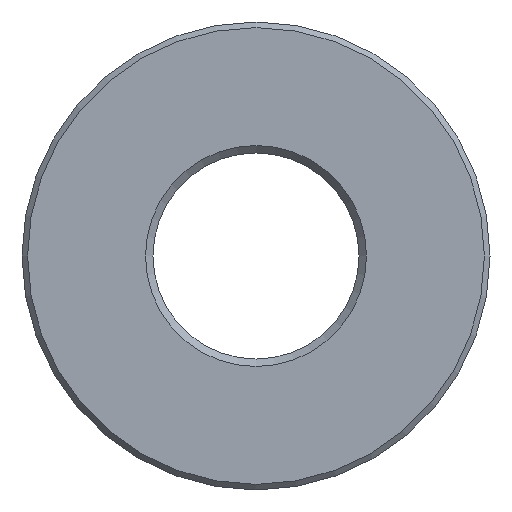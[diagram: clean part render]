
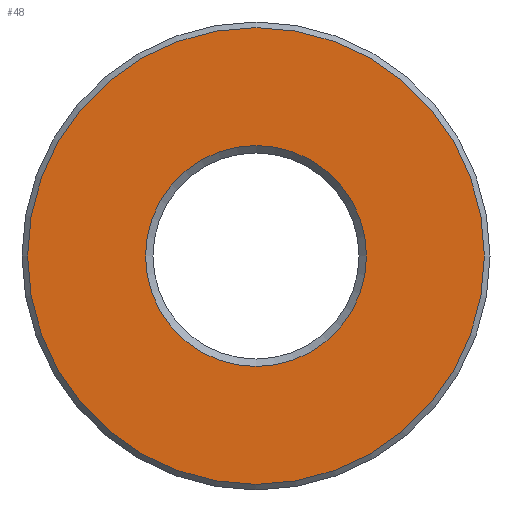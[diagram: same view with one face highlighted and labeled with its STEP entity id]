
A CAD part, left-side view. The second image highlights one B-rep face of the part: STEP entity #48.
In plain terms, the highlighted planar face has unit normal (-1, 0, 0).
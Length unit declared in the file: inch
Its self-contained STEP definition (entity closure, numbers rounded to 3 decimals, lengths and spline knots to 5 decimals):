
#48 = ADVANCED_FACE( '', ( #101, #102 ), #103, .F. );
#101 = FACE_OUTER_BOUND( '', #156, .T. );
#102 = FACE_BOUND( '', #157, .T. );
#103 = PLANE( '', #158 );
#156 = EDGE_LOOP( '', ( #217 ) );
#157 = EDGE_LOOP( '', ( #218 ) );
#158 = AXIS2_PLACEMENT_3D( '', #219, #220, #221 );
#217 = ORIENTED_EDGE( '', *, *, #262, .F. );
#218 = ORIENTED_EDGE( '', *, *, #269, .T. );
#219 = CARTESIAN_POINT( '', ( 0., 0., 0. ) );
#220 = DIRECTION( '', ( 1., 0., 0. ) );
#221 = DIRECTION( '', ( 0., 0., -1. ) );
#262 = EDGE_CURVE( '', #292, #292, #293, .T. );
#269 = EDGE_CURVE( '', #303, #303, #304, .T. );
#292 = VERTEX_POINT( '', #328 );
#293 = CIRCLE( '', #329, 0.61098 );
#303 = VERTEX_POINT( '', #339 );
#304 = CIRCLE( '', #340, 0.29559 );
#328 = CARTESIAN_POINT( '', ( 0., 0., -0.61098 ) );
#329 = AXIS2_PLACEMENT_3D( '', #366, #367, #368 );
#339 = CARTESIAN_POINT( '', ( 0., 0., -0.29559 ) );
#340 = AXIS2_PLACEMENT_3D( '', #378, #379, #380 );
#366 = CARTESIAN_POINT( '', ( 0., 0., 0. ) );
#367 = DIRECTION( '', ( 1., 0., 0. ) );
#368 = DIRECTION( '', ( 0., 0., -1. ) );
#378 = CARTESIAN_POINT( '', ( 0., 0., 0. ) );
#379 = DIRECTION( '', ( 1., 0., 0. ) );
#380 = DIRECTION( '', ( 0., 0., -1. ) );
